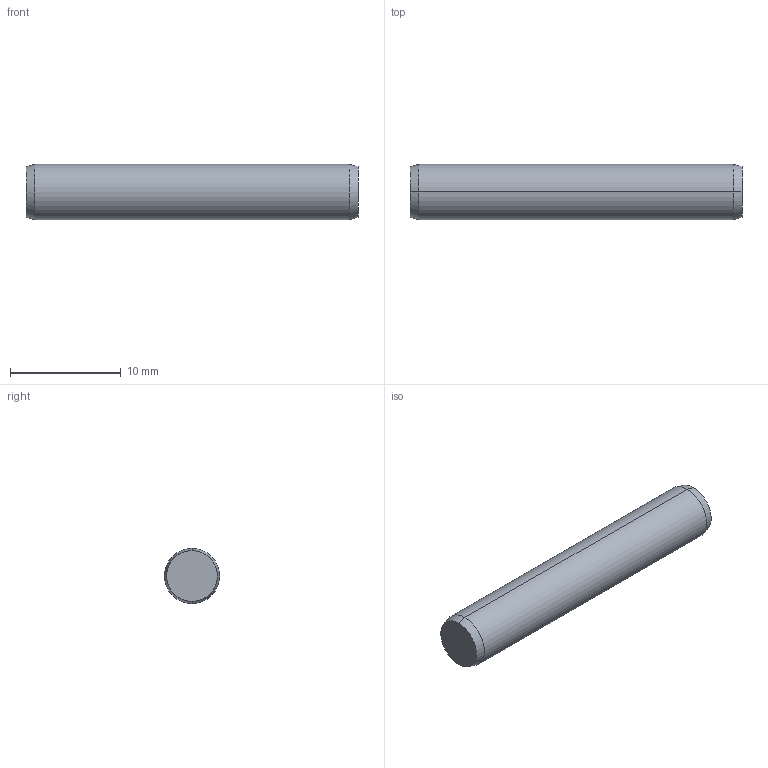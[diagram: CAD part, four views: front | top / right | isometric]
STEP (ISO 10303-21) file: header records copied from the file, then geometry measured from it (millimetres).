
FILE_DESCRIPTION (( 'STEP AP203' ), '1' );
FILE_NAME ('P1206.050-030.step', '2017-06-14T08:16:41', ( 'User' ), ( '' ), 'SwSTEP 2.0', 'SolidWorks 2009', '' );
FILE_SCHEMA (( 'CONFIG_CONTROL_DESIGN' ));
Length unit declared in the file: millimetre
Products named in the file (1): P1206.050-030
Bounding box: 30 x 5 x 5 mm (x, y, z)
Volume: 586.4 mm3; surface area: 503.8 mm2
Topology: 1 solids, 1 shells, 8 faces, 14 edges, 8 vertices
Faces by surface type: cone 4, cylinder 2, plane 2
Entity records: 271 total; most frequent: DIRECTION 40, CARTESIAN_POINT 31, ORIENTED_EDGE 28, AXIS2_PLACEMENT_3D 17, EDGE_CURVE 14, VERTEX_POINT 8, EDGE_LOOP 8, ADVANCED_FACE 8
